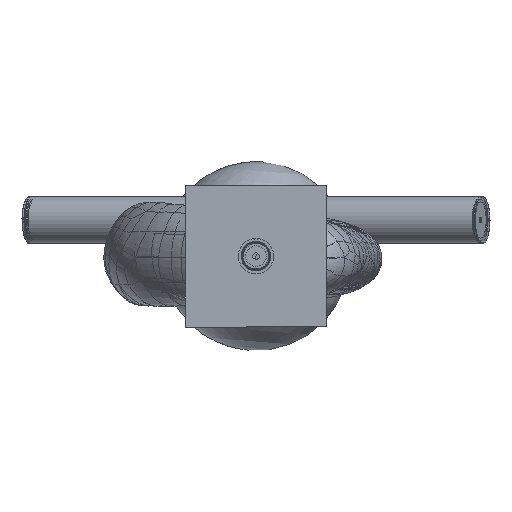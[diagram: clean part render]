
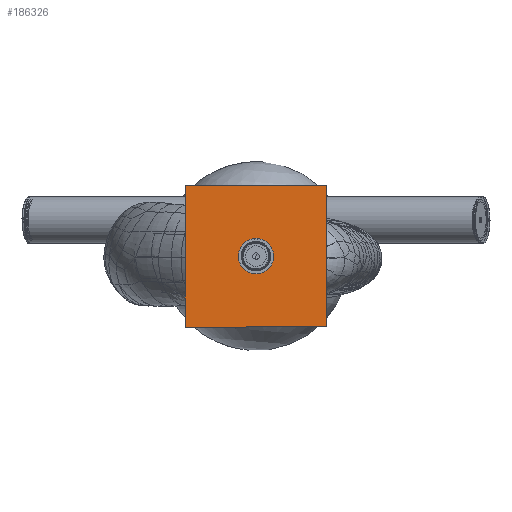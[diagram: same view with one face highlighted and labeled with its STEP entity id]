
A CAD part, front view. The second image highlights one B-rep face of the part: STEP entity #186326.
In plain terms, the highlighted planar face has unit normal (0, -1, 0).
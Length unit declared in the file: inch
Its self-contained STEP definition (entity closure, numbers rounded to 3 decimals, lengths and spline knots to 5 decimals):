
#762 = DIRECTION ( 'NONE',  ( 0., 0., -1. ) ) ;
#2927 = DIRECTION ( 'NONE',  ( 0., 0., 1. ) ) ;
#9208 = DIRECTION ( 'NONE',  ( 0., 0., -1. ) ) ;
#9475 = CARTESIAN_POINT ( 'NONE',  ( 3., 0., 3. ) ) ;
#9477 = VERTEX_POINT ( 'NONE', #9475 ) ;
#12285 = CIRCLE ( 'NONE', #118383, 0.5315 ) ;
#13920 = ORIENTED_EDGE ( 'NONE', *, *, #25302, .F. ) ;
#13965 = AXIS2_PLACEMENT_3D ( 'NONE', #36356, #181528, #32617 ) ;
#15289 = EDGE_LOOP ( 'NONE', ( #158015, #16142 ) ) ;
#16142 = ORIENTED_EDGE ( 'NONE', *, *, #106951, .F. ) ;
#19740 = EDGE_LOOP ( 'NONE', ( #173038, #167733, #13920, #128430 ) ) ;
#25302 = EDGE_CURVE ( 'NONE', #175289, #161686, #116874, .T. ) ;
#29120 = CIRCLE ( 'NONE', #13965, 0.5315 ) ;
#32617 = DIRECTION ( 'NONE',  ( 0., 0., -1. ) ) ;
#33158 = EDGE_CURVE ( 'NONE', #129382, #175289, #141902, .T. ) ;
#36356 = CARTESIAN_POINT ( 'NONE',  ( 0., 0., 0. ) ) ;
#43978 = VERTEX_POINT ( 'NONE', #93725 ) ;
#51936 = CARTESIAN_POINT ( 'NONE',  ( 3., 0., 3. ) ) ;
#56289 = DIRECTION ( 'NONE',  ( 1., 0., 0. ) ) ;
#57855 = EDGE_CURVE ( 'NONE', #142284, #43978, #29120, .T. ) ;
#59571 = FACE_BOUND ( 'NONE', #15289, .T. ) ;
#63392 = EDGE_CURVE ( 'NONE', #161686, #9477, #65160, .T. ) ;
#65160 = LINE ( 'NONE', #66096, #134967 ) ;
#66096 = CARTESIAN_POINT ( 'NONE',  ( -3., 0., 3. ) ) ;
#69761 = CARTESIAN_POINT ( 'NONE',  ( -3., 0., -3. ) ) ;
#82445 = VECTOR ( 'NONE', #2927, 39.37008 ) ;
#92683 = DIRECTION ( 'NONE',  ( 0., 0., -1. ) ) ;
#93725 = CARTESIAN_POINT ( 'NONE',  ( 0., 0., 0.5315 ) ) ;
#94349 = CARTESIAN_POINT ( 'NONE',  ( 0., 0., -0.5315 ) ) ;
#101351 = CARTESIAN_POINT ( 'NONE',  ( 0., 0., 0. ) ) ;
#101817 = VECTOR ( 'NONE', #9208, 39.37008 ) ;
#101966 = DIRECTION ( 'NONE',  ( -1., 0., 0. ) ) ;
#104016 = CARTESIAN_POINT ( 'NONE',  ( -3., 0., -3. ) ) ;
#104469 = CARTESIAN_POINT ( 'NONE',  ( -3., 0., 3. ) ) ;
#106951 = EDGE_CURVE ( 'NONE', #43978, #142284, #12285, .T. ) ;
#108784 = DIRECTION ( 'NONE',  ( 0., -1., 0. ) ) ;
#116874 = LINE ( 'NONE', #104469, #82445 ) ;
#118383 = AXIS2_PLACEMENT_3D ( 'NONE', #122094, #108784, #92683 ) ;
#122094 = CARTESIAN_POINT ( 'NONE',  ( 0., 0., 0. ) ) ;
#124078 = LINE ( 'NONE', #51936, #101817 ) ;
#128430 = ORIENTED_EDGE ( 'NONE', *, *, #33158, .F. ) ;
#129382 = VERTEX_POINT ( 'NONE', #139494 ) ;
#130797 = DIRECTION ( 'NONE',  ( 0., -1., 0. ) ) ;
#131494 = EDGE_CURVE ( 'NONE', #9477, #129382, #124078, .T. ) ;
#134967 = VECTOR ( 'NONE', #56289, 39.37008 ) ;
#139494 = CARTESIAN_POINT ( 'NONE',  ( 3., 0., -3. ) ) ;
#141902 = LINE ( 'NONE', #69761, #179796 ) ;
#142284 = VERTEX_POINT ( 'NONE', #94349 ) ;
#148846 = AXIS2_PLACEMENT_3D ( 'NONE', #101351, #130797, #762 ) ;
#158015 = ORIENTED_EDGE ( 'NONE', *, *, #57855, .F. ) ;
#161095 = PLANE ( 'NONE',  #148846 ) ;
#161686 = VERTEX_POINT ( 'NONE', #169319 ) ;
#167733 = ORIENTED_EDGE ( 'NONE', *, *, #63392, .F. ) ;
#169319 = CARTESIAN_POINT ( 'NONE',  ( -3., 0., 3. ) ) ;
#173038 = ORIENTED_EDGE ( 'NONE', *, *, #131494, .F. ) ;
#175289 = VERTEX_POINT ( 'NONE', #104016 ) ;
#177184 = FACE_OUTER_BOUND ( 'NONE', #19740, .T. ) ;
#179796 = VECTOR ( 'NONE', #101966, 39.37008 ) ;
#181528 = DIRECTION ( 'NONE',  ( 0., -1., 0. ) ) ;
#186326 = ADVANCED_FACE ( 'NONE', ( #59571, #177184 ), #161095, .T. ) ;
